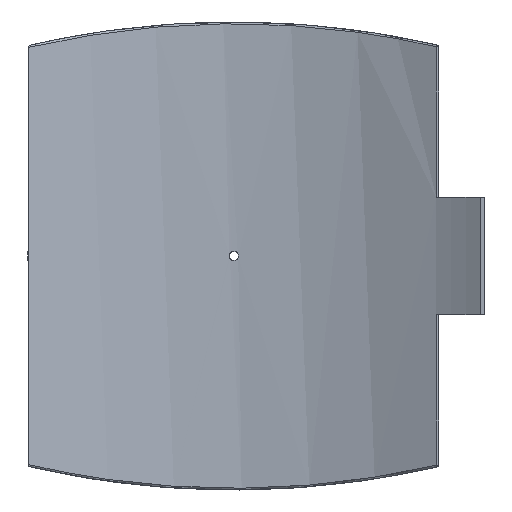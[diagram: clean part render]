
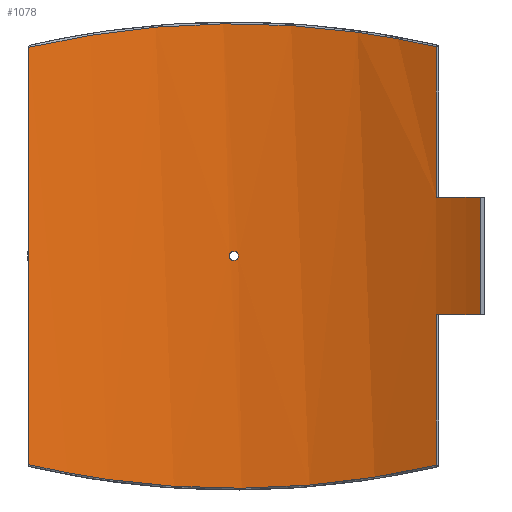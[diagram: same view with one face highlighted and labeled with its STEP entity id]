
A CAD part, front view. The second image highlights one B-rep face of the part: STEP entity #1078.
In plain terms, the highlighted cylindrical face has radius 500 mm (diameter 1000 mm), a partial arc.
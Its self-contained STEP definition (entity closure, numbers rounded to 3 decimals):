
#55=FACE_BOUND('',#355,.T.);
#109=B_SPLINE_CURVE_WITH_KNOTS('',3,(#2213,#2214,#2215,#2216,#2217,#2218,
#2219,#2220,#2221,#2222),.UNSPECIFIED.,.F.,.F.,(4,1,1,1,1,1,1,4),(-54.792,
-47.859,-40.926,-33.993,-27.06,
-20.127,-13.194,-6.261),.UNSPECIFIED.);
#110=B_SPLINE_CURVE_WITH_KNOTS('',3,(#2231,#2232,#2233,#2234,#2235,#2236,
#2237,#2238,#2239,#2240),.UNSPECIFIED.,.F.,.F.,(4,1,1,1,1,1,1,4),(-50.232,
-43.299,-36.366,-29.433,-22.5,
-15.567,-8.634,-1.702),.UNSPECIFIED.);
#111=B_SPLINE_CURVE_WITH_KNOTS('',3,(#2243,#2244,#2245,#2246,#2247,#2248,
#2249,#2250,#2251,#2252),.UNSPECIFIED.,.F.,.F.,(4,2,2,2,4),(0.,0.196,
0.392,0.588,0.784),.UNSPECIFIED.);
#112=B_SPLINE_CURVE_WITH_KNOTS('',3,(#2253,#2254,#2255,#2256,#2257,#2258,
#2259,#2260,#2261,#2262,#2263,#2264,#2265,#2266,#2267,#2268,#2269,#2270,
#2271,#2272,#2273,#2274,#2275,#2276,#2277,#2278),.UNSPECIFIED.,.F.,.F.,
(4,2,2,2,2,2,2,2,2,2,2,2,4),(0.784,0.979,1.175,
1.371,1.567,1.763,1.959,2.155,
2.351,2.546,2.742,2.938,3.134),
 .UNSPECIFIED.);
#133=LINE('',#1615,#184);
#144=LINE('',#1902,#195);
#151=LINE('',#2227,#202);
#152=LINE('',#2230,#203);
#184=VECTOR('',#1292,10.);
#195=VECTOR('',#1331,10.);
#202=VECTOR('',#1368,10.);
#203=VECTOR('',#1371,10.);
#244=CYLINDRICAL_SURFACE('',#1175,500.);
#288=FACE_OUTER_BOUND('',#354,.T.);
#354=EDGE_LOOP('',(#839,#840,#841,#842,#843,#844,#845,#846));
#355=EDGE_LOOP('',(#847,#848));
#449=CIRCLE('',#1176,500.);
#450=CIRCLE('',#1177,500.);
#510=VERTEX_POINT('',#1606);
#513=VERTEX_POINT('',#1613);
#533=VERTEX_POINT('',#1895);
#536=VERTEX_POINT('',#1900);
#549=VERTEX_POINT('',#2199);
#550=VERTEX_POINT('',#2224);
#551=VERTEX_POINT('',#2226);
#552=VERTEX_POINT('',#2229);
#553=VERTEX_POINT('',#2241);
#554=VERTEX_POINT('',#2242);
#613=EDGE_CURVE('',#513,#510,#133,.T.);
#643=EDGE_CURVE('',#536,#533,#144,.T.);
#666=EDGE_CURVE('',#549,#536,#109,.T.);
#667=EDGE_CURVE('',#550,#513,#449,.T.);
#668=EDGE_CURVE('',#550,#551,#151,.T.);
#669=EDGE_CURVE('',#533,#551,#450,.T.);
#670=EDGE_CURVE('',#552,#549,#152,.T.);
#671=EDGE_CURVE('',#510,#552,#110,.T.);
#672=EDGE_CURVE('',#553,#554,#111,.T.);
#673=EDGE_CURVE('',#554,#553,#112,.T.);
#839=ORIENTED_EDGE('',*,*,#667,.F.);
#840=ORIENTED_EDGE('',*,*,#668,.T.);
#841=ORIENTED_EDGE('',*,*,#669,.F.);
#842=ORIENTED_EDGE('',*,*,#643,.F.);
#843=ORIENTED_EDGE('',*,*,#666,.F.);
#844=ORIENTED_EDGE('',*,*,#670,.F.);
#845=ORIENTED_EDGE('',*,*,#671,.F.);
#846=ORIENTED_EDGE('',*,*,#613,.F.);
#847=ORIENTED_EDGE('',*,*,#672,.T.);
#848=ORIENTED_EDGE('',*,*,#673,.T.);
#1078=ADVANCED_FACE('',(#288,#55),#244,.F.);
#1175=AXIS2_PLACEMENT_3D('',#2223,#1364,#1365);
#1176=AXIS2_PLACEMENT_3D('',#2225,#1366,#1367);
#1177=AXIS2_PLACEMENT_3D('',#2228,#1369,#1370);
#1292=DIRECTION('',(0.,0.,-1.));
#1331=DIRECTION('',(0.,0.,-1.));
#1364=DIRECTION('center_axis',(0.,0.,1.));
#1365=DIRECTION('ref_axis',(-1.,0.,0.));
#1366=DIRECTION('center_axis',(0.,0.,1.));
#1367=DIRECTION('ref_axis',(-0.559,-0.829,0.));
#1368=DIRECTION('',(0.,0.,1.));
#1369=DIRECTION('center_axis',(0.,0.,-1.));
#1370=DIRECTION('ref_axis',(-0.559,-0.829,0.));
#1371=DIRECTION('',(0.,0.,1.));
#1606=CARTESIAN_POINT('',(229.283,444.33,-236.908));
#1613=CARTESIAN_POINT('',(229.283,444.33,-66.25));
#1615=CARTESIAN_POINT('',(229.283,444.33,0.));
#1895=CARTESIAN_POINT('',(229.283,444.33,66.25));
#1900=CARTESIAN_POINT('',(229.283,444.33,236.908));
#1902=CARTESIAN_POINT('',(229.283,444.33,0.));
#2199=CARTESIAN_POINT('',(-232.2,442.813,236.231));
#2213=CARTESIAN_POINT('Ctrl Pts',(-232.2,442.813,236.231));
#2214=CARTESIAN_POINT('Ctrl Pts',(-212.236,453.281,240.896));
#2215=CARTESIAN_POINT('Ctrl Pts',(-170.715,471.606,249.323));
#2216=CARTESIAN_POINT('Ctrl Pts',(-104.722,490.524,258.366));
#2217=CARTESIAN_POINT('Ctrl Pts',(-36.308,500.278,263.135));
#2218=CARTESIAN_POINT('Ctrl Pts',(32.945,500.51,263.249));
#2219=CARTESIAN_POINT('Ctrl Pts',(101.436,491.216,258.702));
#2220=CARTESIAN_POINT('Ctrl Pts',(167.583,472.73,249.852));
#2221=CARTESIAN_POINT('Ctrl Pts',(209.24,454.673,241.529));
#2222=CARTESIAN_POINT('Ctrl Pts',(229.283,444.33,236.908));
#2223=CARTESIAN_POINT('Origin',(0.,0.,0.));
#2224=CARTESIAN_POINT('',(279.258,414.747,-66.25));
#2225=CARTESIAN_POINT('Origin',(0.,0.,
-66.25));
#2226=CARTESIAN_POINT('',(279.258,414.747,66.25));
#2227=CARTESIAN_POINT('',(279.258,414.747,0.));
#2228=CARTESIAN_POINT('Origin',(0.,0.,
66.25));
#2229=CARTESIAN_POINT('',(-232.2,442.813,-236.231));
#2230=CARTESIAN_POINT('',(-232.2,442.813,0.));
#2231=CARTESIAN_POINT('Ctrl Pts',(229.283,444.33,-236.908));
#2232=CARTESIAN_POINT('Ctrl Pts',(209.24,454.673,-241.529));
#2233=CARTESIAN_POINT('Ctrl Pts',(167.583,472.73,-249.852));
#2234=CARTESIAN_POINT('Ctrl Pts',(101.436,491.216,-258.702));
#2235=CARTESIAN_POINT('Ctrl Pts',(32.945,500.51,-263.249));
#2236=CARTESIAN_POINT('Ctrl Pts',(-36.307,500.278,-263.135));
#2237=CARTESIAN_POINT('Ctrl Pts',(-104.722,490.525,-258.366));
#2238=CARTESIAN_POINT('Ctrl Pts',(-170.715,471.606,-249.323));
#2239=CARTESIAN_POINT('Ctrl Pts',(-212.236,453.281,-240.896));
#2240=CARTESIAN_POINT('Ctrl Pts',(-232.2,442.813,-236.231));
#2241=CARTESIAN_POINT('',(5.2,499.973,0.));
#2242=CARTESIAN_POINT('',(0.,500.,-5.2));
#2243=CARTESIAN_POINT('Ctrl Pts',(5.2,499.973,0.));
#2244=CARTESIAN_POINT('Ctrl Pts',(5.2,499.973,-0.653));
#2245=CARTESIAN_POINT('Ctrl Pts',(5.07,499.974,-1.349));
#2246=CARTESIAN_POINT('Ctrl Pts',(4.539,499.979,-2.631));
#2247=CARTESIAN_POINT('Ctrl Pts',(4.139,499.983,-3.215));
#2248=CARTESIAN_POINT('Ctrl Pts',(3.215,499.99,-4.139));
#2249=CARTESIAN_POINT('Ctrl Pts',(2.631,499.993,-4.539));
#2250=CARTESIAN_POINT('Ctrl Pts',(1.349,499.999,-5.07));
#2251=CARTESIAN_POINT('Ctrl Pts',(0.653,500.,-5.2));
#2252=CARTESIAN_POINT('Ctrl Pts',(0.,500.,-5.2));
#2253=CARTESIAN_POINT('Ctrl Pts',(0.,500.,-5.2));
#2254=CARTESIAN_POINT('Ctrl Pts',(-0.653,500.,-5.2));
#2255=CARTESIAN_POINT('Ctrl Pts',(-1.349,499.999,-5.07));
#2256=CARTESIAN_POINT('Ctrl Pts',(-2.631,499.993,-4.539));
#2257=CARTESIAN_POINT('Ctrl Pts',(-3.215,499.99,-4.139));
#2258=CARTESIAN_POINT('Ctrl Pts',(-4.139,499.983,-3.215));
#2259=CARTESIAN_POINT('Ctrl Pts',(-4.539,499.979,-2.631));
#2260=CARTESIAN_POINT('Ctrl Pts',(-5.07,499.974,-1.349));
#2261=CARTESIAN_POINT('Ctrl Pts',(-5.2,499.973,-0.653));
#2262=CARTESIAN_POINT('Ctrl Pts',(-5.2,499.973,0.653));
#2263=CARTESIAN_POINT('Ctrl Pts',(-5.07,499.974,1.349));
#2264=CARTESIAN_POINT('Ctrl Pts',(-4.539,499.979,2.631));
#2265=CARTESIAN_POINT('Ctrl Pts',(-4.139,499.983,3.215));
#2266=CARTESIAN_POINT('Ctrl Pts',(-3.215,499.99,4.139));
#2267=CARTESIAN_POINT('Ctrl Pts',(-2.631,499.993,4.539));
#2268=CARTESIAN_POINT('Ctrl Pts',(-1.349,499.999,5.07));
#2269=CARTESIAN_POINT('Ctrl Pts',(-0.653,500.,5.2));
#2270=CARTESIAN_POINT('Ctrl Pts',(0.653,500.,5.2));
#2271=CARTESIAN_POINT('Ctrl Pts',(1.349,499.999,5.07));
#2272=CARTESIAN_POINT('Ctrl Pts',(2.631,499.993,4.539));
#2273=CARTESIAN_POINT('Ctrl Pts',(3.215,499.99,4.139));
#2274=CARTESIAN_POINT('Ctrl Pts',(4.139,499.983,3.215));
#2275=CARTESIAN_POINT('Ctrl Pts',(4.539,499.979,2.631));
#2276=CARTESIAN_POINT('Ctrl Pts',(5.07,499.974,1.349));
#2277=CARTESIAN_POINT('Ctrl Pts',(5.2,499.973,0.653));
#2278=CARTESIAN_POINT('Ctrl Pts',(5.2,499.973,0.));
